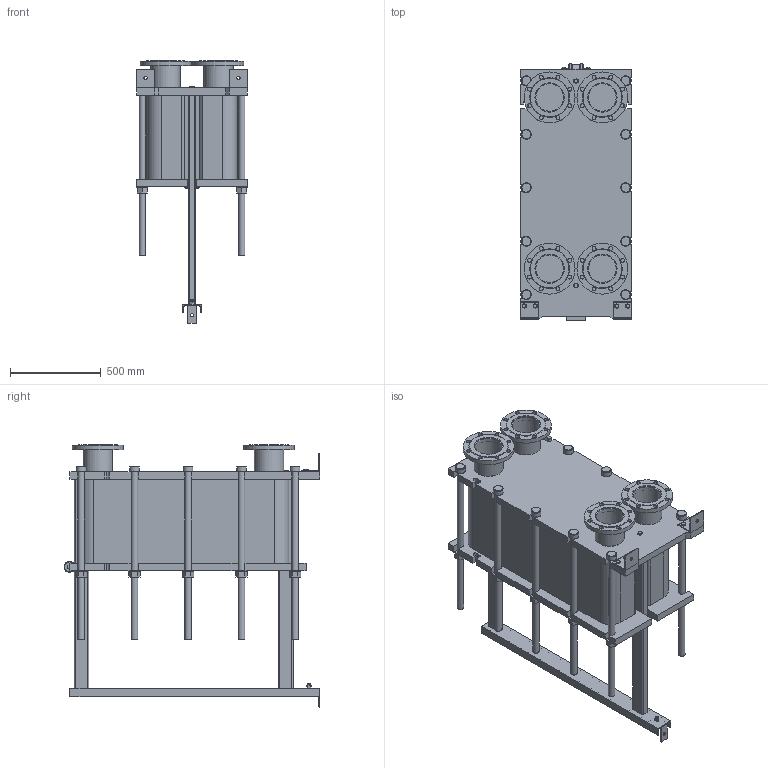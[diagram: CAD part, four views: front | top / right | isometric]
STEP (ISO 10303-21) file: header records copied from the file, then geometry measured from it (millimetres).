
FILE_DESCRIPTION(/* description */ (''),/* implementation_level */ '2;1');
FILE_NAME(/* name */ 'C:\Users\zhuro\Desktop\ENCO\TO\ЭН-041\ЭН-0,5-041-134-1.stp',/* time_stamp */ '2022-06-06T11:00:29+03:00',/* author */ ('zhuro'),/* organization */ (''),/* preprocessor_version */ 'ST-DEVELOPER v18.1',/* originating_system */ 'Autodesk Inventor 2022',/* authorisation */ '');
FILE_SCHEMA (('AUTOMOTIVE_DESIGN { 1 0 10303 214 3 1 1 }'));
Length unit declared in the file: millimetre
Products named in the file (1): ЭН-0,5-041-134-1
Bounding box: 610 x 1406.5 x 1445 mm (x, y, z)
Volume: 342877172.9 mm3; surface area: 9774183.2 mm2
Topology: 52 solids, 52 shells, 711 faces, 1696 edges, 1094 vertices
Faces by surface type: plane 487, cylinder 177, cone 41, torus 6
Full cylindrical faces by diameter (mm): 8 x4, 10 x2, 16 x8, 18 x3, 22 x32, 36 x24, 50 x1, 54 x10, 60 x12, 151 x4, 161 x8, 280 x4
Entity records: 22667 total; most frequent: CARTESIAN_POINT 5230, DIRECTION 3644, ORIENTED_EDGE 3392, EDGE_CURVE 1696, AXIS2_PLACEMENT_3D 1272, LINE 1100, VECTOR 1100, VERTEX_POINT 1094
